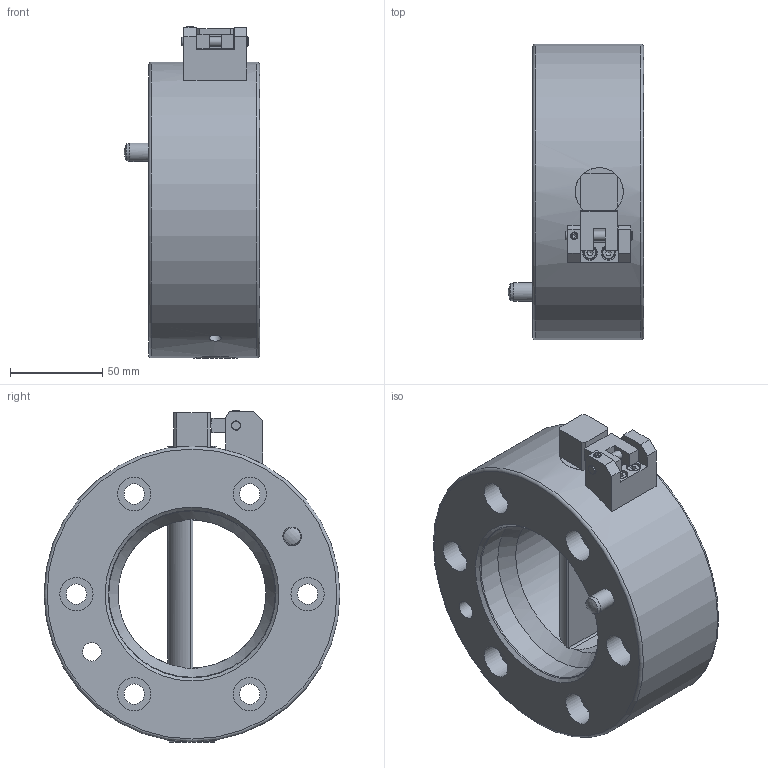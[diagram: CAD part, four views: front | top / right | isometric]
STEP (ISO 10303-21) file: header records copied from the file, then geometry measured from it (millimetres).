
FILE_DESCRIPTION((''),'2;1');
FILE_NAME('T:\CAD\Standard\Daten\Datenbank STANDARD 00\2 SWS\4 - 3D-CAD-Daten SWS 050-160\SWS160-B02\step-Daten\G-SWS160-2O-N-B02.stp','2012-11-22T10:33:16',('Yvonne'),(''),'Autodesk Inventor 2011','Autodesk Inventor 2011','');
FILE_SCHEMA(('AUTOMOTIVE_DESIGN { 1 0 10303 214 1 1 1 1 }'));
Length unit declared in the file: millimetre
Products named in the file (1): Bauteil1
Bounding box: 73.15 x 160 x 179.55 mm (x, y, z)
Volume: 864986.3 mm3; surface area: 103137.6 mm2
Topology: 2 solids, 9 shells, 187 faces, 435 edges, 281 vertices
Faces by surface type: plane 88, cylinder 63, cone 21, torus 9, bspline 4, sphere 2
Full cylindrical faces by diameter (mm): 3.242 x2, 4 x3, 4.5 x2, 5 x3, 5.1 x2, 5.5 x1, 6.5 x1, 6.647 x2, 7 x2, 8 x2, 10 x3, 11 x6, 18 x6, 80 x1, 90 x1, 160 x1
Entity records: 5561 total; most frequent: CARTESIAN_POINT 1466, DIRECTION 778, ORIENTED_EDGE 700, EDGE_CURVE 350, AXIS2_PLACEMENT_3D 316, EDGE_LOOP 294, VERTEX_POINT 258, STYLED_ITEM 189
